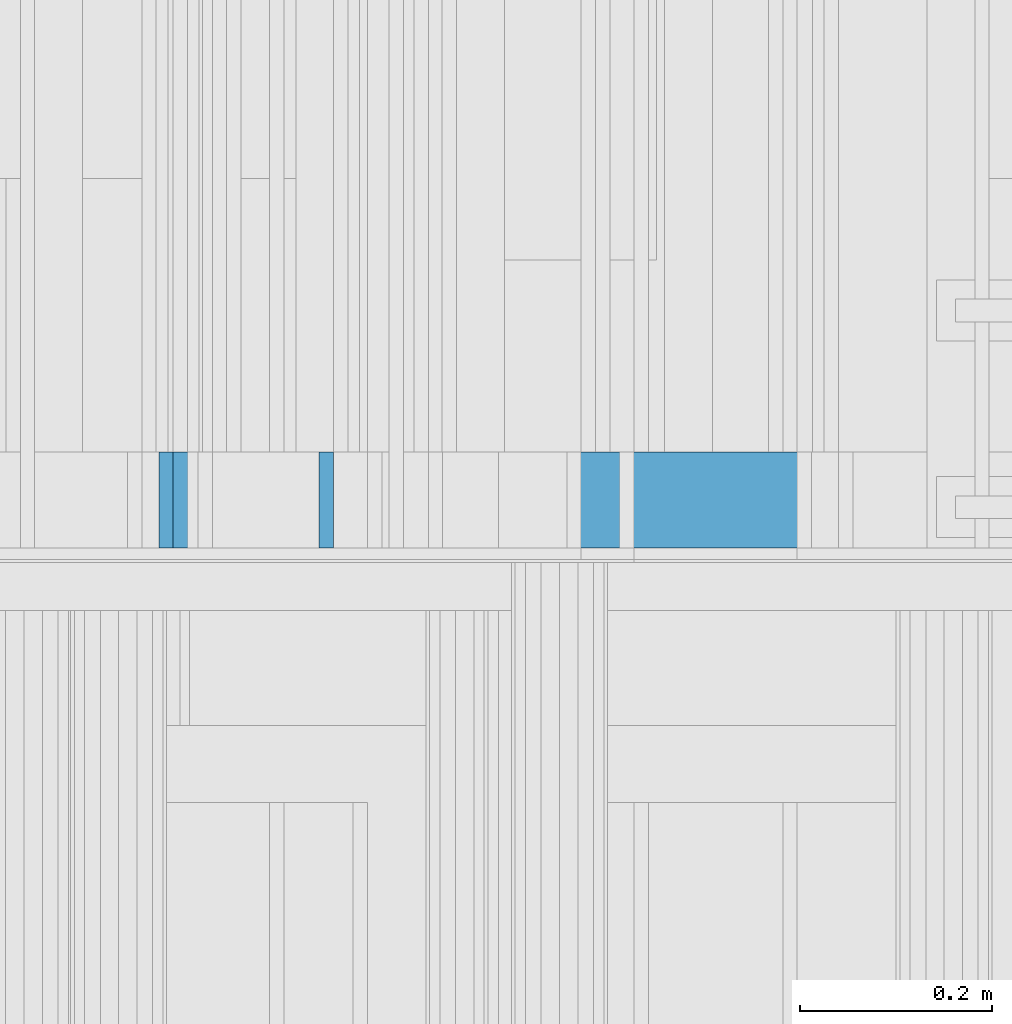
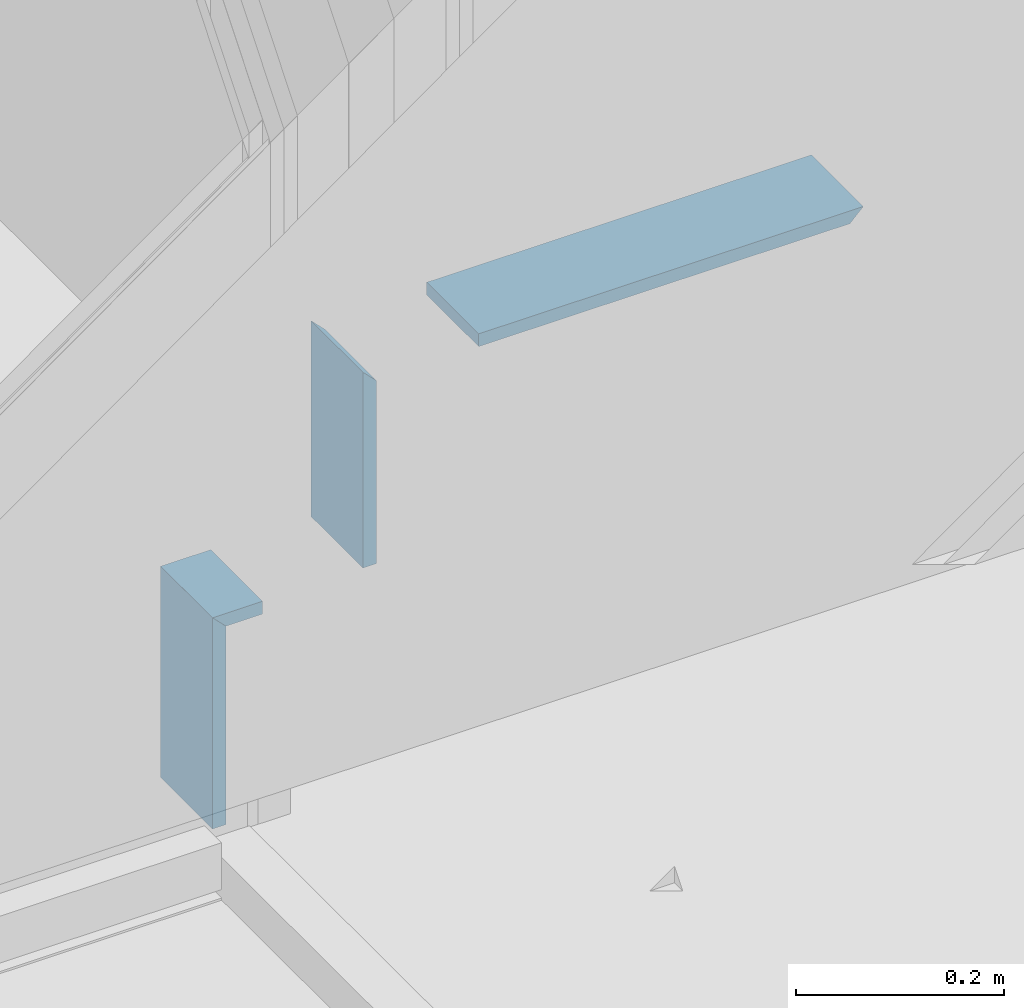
# One storey, part 219 of 583: 4 building element parts, 4 elements without a shape of their own.
"""IFC2X3 building model written with IfcOpenShell, lengths in metres."""

import ifcopenshell
import ifcopenshell.guid

model = None  # the IFC model being written
_history = None  # IfcOwnerHistory: only IFC2X3 demands one
_inside = {}  # id of a spatial element -> (the spatial element, [elements in it])
_under = {}  # id of a project, library or spatial element -> (it, [spatial elements below it])
_declared = {}  # id of a project -> (the project, [libraries it declares])
_typed = {}  # id of a type object -> (the type object, [elements of that type])
_made_of = {}  # id of a material, layer set ... -> (it, [elements and type objects made of it])


def new_model(schema):
    """Start an empty IFC model of exactly this schema.

    Asked for "IFC4X3", IfcOpenShell would pick the latest addendum, in which some entities
    have other attributes; the version numbers below select the first issue.
    IFC2X3 requires an IfcOwnerHistory on every rooted entity: one is made here for all.
    """
    global model, _history
    if schema == "IFC4X3":
        model = ifcopenshell.file(schema_version=(4, 3, 0, 0))
    else:
        model = ifcopenshell.file(schema=schema)
    _inside.clear()
    _under.clear()
    _declared.clear()
    _typed.clear()
    _made_of.clear()
    _history = None
    if model.schema == "IFC2X3":
        org = make("IfcOrganization", Name="unknown")
        user = make(
            "IfcPersonAndOrganization",
            ThePerson=make("IfcPerson", FamilyName="unknown"),
            TheOrganization=org,
        )
        app = make(
            "IfcApplication",
            ApplicationDeveloper=org,
            Version="unknown",
            ApplicationFullName="unknown",
            ApplicationIdentifier="unknown",
        )
        _history = make(
            "IfcOwnerHistory",
            OwningUser=user,
            OwningApplication=app,
            ChangeAction="ADDED",
            CreationDate=0,
        )
    return model


def make(cls, **values):
    """One entity of the class cls with the attributes given. An attribute that is None is left unset."""
    return model.create_entity(
        cls, **{name: value for name, value in values.items() if value is not None}
    )


def entity(cls, *values):
    """Any entity or typed value of the class cls, its attributes in the order of the schema. None: left unset."""
    e = model.create_entity(cls)
    for i, value in enumerate(values):
        if value is not None:
            e[i] = value
    return e


def rooted(cls, **values):
    """An entity with a GlobalId (a new one), such as an element, a storey or a relation."""
    return make(cls, GlobalId=ifcopenshell.guid.new(), OwnerHistory=_history, **values)


def si_unit(unit_type, name, prefix=None):
    """IfcSIUnit, for example si_unit("LENGTHUNIT", "METRE", prefix="MILLI")."""
    return make("IfcSIUnit", UnitType=unit_type, Prefix=prefix, Name=name)


def converted_unit(unit_type, name, factor, base, dimensions=None, offset=None):
    """IfcConversionBasedUnit, such as the inch: factor (a typed value) times the base unit."""
    return make(
        "IfcConversionBasedUnit"
        if offset is None
        else "IfcConversionBasedUnitWithOffset",
        ConversionOffset=offset,
        Dimensions=None
        if dimensions is None
        else entity("IfcDimensionalExponents", *dimensions),
        UnitType=unit_type,
        Name=name,
        ConversionFactor=make(
            "IfcMeasureWithUnit", ValueComponent=factor, UnitComponent=base
        ),
    )


def derived_unit(unit_type, elements):
    """IfcDerivedUnit: a product of units, each with its exponent."""
    return make(
        "IfcDerivedUnit",
        Elements=[
            make("IfcDerivedUnitElement", Unit=unit, Exponent=power)
            for unit, power in elements
        ],
        UnitType=unit_type,
    )


def money_unit(currency):
    """IfcMonetaryUnit."""
    return make("IfcMonetaryUnit", Currency=currency)


def assignment(units):
    """IfcUnitAssignment: the units of a project."""
    return None if units is None else make("IfcUnitAssignment", Units=units)


def point(xyz):
    """IfcCartesianPoint."""
    return None if xyz is None else make("IfcCartesianPoint", Coordinates=xyz)


def direction(xyz):
    """IfcDirection."""
    return None if xyz is None else make("IfcDirection", DirectionRatios=xyz)


def frame(location, z_axis=None, x_axis=None):
    """IfcAxis2Placement3D, a coordinate frame: its origin and axes. An axis left out is left unset."""
    return make(
        "IfcAxis2Placement3D",
        Location=point(location),
        Axis=direction(z_axis),
        RefDirection=direction(x_axis),
    )


def origin_with_axes():
    """The frame at (0, 0, 0) with the z axis (0, 0, 1) and the x axis (1, 0, 0) written out."""
    return frame((0.0, 0.0, 0.0), z_axis=(0.0, 0.0, 1.0), x_axis=(1.0, 0.0, 0.0))


def place(relative_to, where):
    """IfcLocalPlacement: puts the frame where relative to a parent placement (None: the world)."""
    return make(
        "IfcLocalPlacement", PlacementRelTo=relative_to, RelativePlacement=where
    )


def context(
    kind, dimensions, precision=None, world=None, true_north=None, identifier=None
):
    """IfcGeometricRepresentationContext, for example the 3D "Model" context."""
    return make(
        "IfcGeometricRepresentationContext",
        ContextIdentifier=identifier,
        ContextType=kind,
        CoordinateSpaceDimension=dimensions,
        Precision=precision,
        WorldCoordinateSystem=world,
        TrueNorth=true_north,
    )


def subcontext(parent, identifier, kind, view, scale=None):
    """IfcGeometricRepresentationSubContext, for example "Body" below "Model"."""
    return make(
        "IfcGeometricRepresentationSubContext",
        ContextIdentifier=identifier,
        ContextType=kind,
        ParentContext=parent,
        TargetScale=scale,
        TargetView=view,
    )


def project(units=None, contexts=None):
    """IfcProject with its units and contexts."""
    return rooted(
        "IfcProject",
        Name="project",
        RepresentationContexts=contexts,
        UnitsInContext=assignment(units),
    )


def spatial(cls, under=None, at=None, **own):
    """A site, building, storey or space (cls), placed at a placement, below another one or the project."""
    s = rooted(cls, ObjectPlacement=at, **own)
    if under is not None:
        _under.setdefault(under.id(), (under, []))[1].append(s)
    return s


def polyline(points):
    """IfcPolyline through the points."""
    return make("IfcPolyline", Points=[point(p) for p in points])


def outline(outer, holes=None, kind="AREA"):
    """IfcArbitraryClosedProfileDef: a profile drawn as a closed curve; with holes, ...WithVoids."""
    if holes is None:
        return make("IfcArbitraryClosedProfileDef", ProfileType=kind, OuterCurve=outer)
    return make(
        "IfcArbitraryProfileDefWithVoids",
        ProfileType=kind,
        OuterCurve=outer,
        InnerCurves=holes,
    )


def extrude(swept, where, along, depth):
    """IfcExtrudedAreaSolid: the profile swept, set in the frame where, extruded along a direction by depth."""
    return make(
        "IfcExtrudedAreaSolid",
        SweptArea=swept,
        Position=where,
        ExtrudedDirection=direction(along),
        Depth=depth,
    )


def shape(context_of_items, identifier, shape_type, items):
    """IfcShapeRepresentation: the items that make up one representation, for example the "Body"."""
    return make(
        "IfcShapeRepresentation",
        ContextOfItems=context_of_items,
        RepresentationIdentifier=identifier,
        RepresentationType=shape_type,
        Items=items,
    )


def material(Name=None, Category=None):
    """IfcMaterial."""
    return make("IfcMaterial", Name=Name, Category=Category)


def made_of(thing, what):
    """Note that an element or type object is made of a material, layer set ...; save() writes the relation."""
    if what is not None:
        _made_of.setdefault(what.id(), (what, []))[1].append(thing)
    return thing


def type_object(cls, material=None, **own):
    """A type object (cls), such as IfcWallType, which elements share."""
    return made_of(rooted(cls, **own), material)


def element(
    cls,
    number,
    at=None,
    inside=None,
    cuts=None,
    type_object=None,
    material=None,
    context=None,
    identifier="Body",
    shape_type=None,
    held_by="IfcProductDefinitionShape",
    body=None,
    shapes=None,
    **own,
):
    """One element of the class cls, such as IfcWall. Its Tag is "e" and its number.

    at: its placement. inside: the storey or other place that contains it. cuts: it is an
    opening in that element (IfcRelVoidsElement). A single representation is given by context,
    identifier, shape_type and body (its items); several are given by shapes. held_by: the class
    of the entity that holds the representations. save() writes the other relations.
    """
    e = rooted(cls, Tag="e%d" % number, ObjectPlacement=at, **own)
    if body is not None:
        shapes = [shape(context, identifier, shape_type, body)]
    if shapes is not None:
        e.Representation = make(held_by, Representations=shapes)
    if inside is not None:
        _inside.setdefault(inside.id(), (inside, []))[1].append(e)
    if cuts is not None:
        rooted(
            "IfcRelVoidsElement", RelatingBuildingElement=cuts, RelatedOpeningElement=e
        )
    if type_object is not None:
        _typed.setdefault(type_object.id(), (type_object, []))[1].append(e)
    return made_of(e, material)


def aggregate(whole, parts):
    """IfcRelAggregates: a whole, such as a stair, and the parts it consists of."""
    return rooted("IfcRelAggregates", RelatingObject=whole, RelatedObjects=parts)


def save(model, path):
    """Write the relations noted so far, then the file.

    IfcRelAggregates (storeys below a building ...), IfcRelContainedInSpatialStructure (elements
    in a storey), IfcRelDefinesByType, IfcRelAssociatesMaterial and IfcRelDeclares: one each for
    every whole, place, type object, material and project.
    """
    for whole, parts in _under.values():
        aggregate(whole, parts)
    for where, things in _inside.values():
        rooted(
            "IfcRelContainedInSpatialStructure",
            RelatedElements=things,
            RelatingStructure=where,
        )
    for kind, things in _typed.values():
        rooted("IfcRelDefinesByType", RelatedObjects=things, RelatingType=kind)
    for what, things in _made_of.values():
        rooted("IfcRelAssociatesMaterial", RelatedObjects=things, RelatingMaterial=what)
    for by, libraries in _declared.values():
        rooted("IfcRelDeclares", RelatingContext=by, RelatedDefinitions=libraries)
    model.write(path)


model = new_model("IFC2X3")

# Units and contexts
model_context = context("Model", 3, precision=1e-05, world=origin_with_axes(), true_north=direction((0.0, 1.0)))
body_context = subcontext(model_context, "Body", "Model", "MODEL_VIEW", scale=1.0)
ifc_project = project(units=[si_unit("LENGTHUNIT", "METRE"), si_unit("AREAUNIT", "SQUARE_METRE"), si_unit("VOLUMEUNIT", "CUBIC_METRE"), si_unit("ABSORBEDDOSEUNIT", "GRAY"), si_unit("AMOUNTOFSUBSTANCEUNIT", "MOLE"), si_unit("DOSEEQUIVALENTUNIT", "SIEVERT"), si_unit("ELECTRICCAPACITANCEUNIT", "FARAD"), si_unit("ELECTRICCHARGEUNIT", "COULOMB"), si_unit("ELECTRICCONDUCTANCEUNIT", "SIEMENS"), si_unit("ELECTRICCURRENTUNIT", "AMPERE"), si_unit("ELECTRICRESISTANCEUNIT", "OHM"), si_unit("ELECTRICVOLTAGEUNIT", "VOLT"), si_unit("ENERGYUNIT", "JOULE"), si_unit("FORCEUNIT", "NEWTON"), si_unit("FREQUENCYUNIT", "HERTZ"), si_unit("ILLUMINANCEUNIT", "LUX"), si_unit("INDUCTANCEUNIT", "HENRY"), si_unit("LUMINOUSFLUXUNIT", "LUMEN"), si_unit("LUMINOUSINTENSITYUNIT", "CANDELA"), si_unit("MAGNETICFLUXDENSITYUNIT", "TESLA"), si_unit("MAGNETICFLUXUNIT", "WEBER"), si_unit("MASSUNIT", "GRAM"), converted_unit("PLANEANGLEUNIT", "degree", entity("IfcReal", 0.0174532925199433), si_unit("PLANEANGLEUNIT", "RADIAN"), dimensions=[0, 0, 0, 0, 0, 0, 0]), si_unit("POWERUNIT", "WATT"), si_unit("PRESSUREUNIT", "PASCAL"), si_unit("RADIOACTIVITYUNIT", "BECQUEREL"), si_unit("SOLIDANGLEUNIT", "STERADIAN"), si_unit("THERMODYNAMICTEMPERATUREUNIT", "KELVIN"), si_unit("TIMEUNIT", "SECOND"), derived_unit("ACCELERATIONUNIT", [(si_unit("LENGTHUNIT", "METRE"), 1), (si_unit("TIMEUNIT", "SECOND"), -2)]), derived_unit("ANGULARVELOCITYUNIT", [(converted_unit("PLANEANGLEUNIT", "degree", entity("IfcReal", 0.0174532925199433), si_unit("PLANEANGLEUNIT", "RADIAN"), dimensions=[0, 0, 0, 0, 0, 0, 0]), 1), (si_unit("TIMEUNIT", "SECOND"), -1)]), derived_unit("CURVATUREUNIT", [(converted_unit("PLANEANGLEUNIT", "degree", entity("IfcReal", 0.0174532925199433), si_unit("PLANEANGLEUNIT", "RADIAN"), dimensions=[0, 0, 0, 0, 0, 0, 0]), 1), (si_unit("LENGTHUNIT", "METRE"), -1)]), derived_unit("DYNAMICVISCOSITYUNIT", [(si_unit("PRESSUREUNIT", "PASCAL"), 1), (si_unit("TIMEUNIT", "SECOND"), 1)]), derived_unit("HEATFLUXDENSITYUNIT", [(si_unit("POWERUNIT", "WATT"), 1), (si_unit("LENGTHUNIT", "METRE"), -2)]), derived_unit("HEATINGVALUEUNIT", [(si_unit("ENERGYUNIT", "JOULE"), 1), (si_unit("MASSUNIT", "GRAM"), -1)]), derived_unit("INTEGERCOUNTRATEUNIT", [(si_unit("TIMEUNIT", "SECOND"), -1)]), derived_unit("IONCONCENTRATIONUNIT", [(si_unit("MASSUNIT", "GRAM"), 1), (si_unit("VOLUMEUNIT", "CUBIC_METRE"), -1)]), derived_unit("ISOTHERMALMOISTURECAPACITYUNIT", [(si_unit("VOLUMEUNIT", "CUBIC_METRE"), 1), (si_unit("MASSUNIT", "GRAM"), -1)]), derived_unit("KINEMATICVISCOSITYUNIT", [(si_unit("AREAUNIT", "SQUARE_METRE"), 1), (si_unit("TIMEUNIT", "SECOND"), -1)]), derived_unit("LINEARFORCEUNIT", [(si_unit("FORCEUNIT", "NEWTON"), 1), (si_unit("LENGTHUNIT", "METRE"), -1)]), derived_unit("LINEARMOMENTUNIT", [(si_unit("FORCEUNIT", "NEWTON"), 1), (si_unit("LENGTHUNIT", "METRE"), -1)]), derived_unit("LINEARSTIFFNESSUNIT", [(si_unit("FORCEUNIT", "NEWTON"), 1), (si_unit("LENGTHUNIT", "METRE"), -1)]), derived_unit("LINEARVELOCITYUNIT", [(si_unit("LENGTHUNIT", "METRE"), 1), (si_unit("TIMEUNIT", "SECOND"), -1)]), derived_unit("LUMINOUSINTENSITYDISTRIBUTIONUNIT", [(si_unit("LUMINOUSINTENSITYUNIT", "CANDELA"), 1), (si_unit("LUMINOUSFLUXUNIT", "LUMEN"), -1)]), derived_unit("MASSDENSITYUNIT", [(si_unit("MASSUNIT", "GRAM"), 1), (si_unit("VOLUMEUNIT", "CUBIC_METRE"), -1)]), derived_unit("MASSFLOWRATEUNIT", [(si_unit("MASSUNIT", "GRAM"), 1), (si_unit("TIMEUNIT", "SECOND"), -1)]), derived_unit("MASSPERLENGTHUNIT", [(si_unit("MASSUNIT", "GRAM"), 1), (si_unit("LENGTHUNIT", "METRE"), -1)]), derived_unit("MODULUSOFELASTICITYUNIT", [(si_unit("FORCEUNIT", "NEWTON"), 1), (si_unit("AREAUNIT", "SQUARE_METRE"), -1)]), derived_unit("MODULUSOFLINEARSUBGRADEREACTIONUNIT", [(si_unit("FORCEUNIT", "NEWTON"), 1), (si_unit("LENGTHUNIT", "METRE"), -2)]), derived_unit("MODULUSOFROTATIONALSUBGRADEREACTIONUNIT", [(si_unit("FORCEUNIT", "NEWTON"), 1), (si_unit("LENGTHUNIT", "METRE"), 1)]), derived_unit("MODULUSOFSUBGRADEREACTIONUNIT", [(si_unit("FORCEUNIT", "NEWTON"), 1), (si_unit("VOLUMEUNIT", "CUBIC_METRE"), -1)]), derived_unit("MOISTUREDIFFUSIVITYUNIT", [(si_unit("VOLUMEUNIT", "CUBIC_METRE"), 1), (si_unit("TIMEUNIT", "SECOND"), -1)]), derived_unit("MOLECULARWEIGHTUNIT", [(si_unit("MASSUNIT", "GRAM"), 1), (si_unit("AMOUNTOFSUBSTANCEUNIT", "MOLE"), -1)]), derived_unit("PLANARFORCEUNIT", [(si_unit("FORCEUNIT", "NEWTON"), 1), (si_unit("LENGTHUNIT", "METRE"), -2)]), derived_unit("ROTATIONALFREQUENCYUNIT", [(si_unit("TIMEUNIT", "SECOND"), -1)]), derived_unit("ROTATIONALMASSUNIT", [(si_unit("MASSUNIT", "GRAM"), 1), (si_unit("LENGTHUNIT", "METRE"), 2)]), derived_unit("ROTATIONALSTIFFNESSUNIT", [(si_unit("FORCEUNIT", "NEWTON"), 1), (si_unit("LENGTHUNIT", "METRE"), 1), (converted_unit("PLANEANGLEUNIT", "degree", entity("IfcReal", 0.0174532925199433), si_unit("PLANEANGLEUNIT", "RADIAN"), dimensions=[0, 0, 0, 0, 0, 0, 0]), -1)]), derived_unit("SECTIONAREAINTEGRALUNIT", [(si_unit("LENGTHUNIT", "METRE"), 5)]), derived_unit("SECTIONMODULUSUNIT", [(si_unit("LENGTHUNIT", "METRE"), 3)]), derived_unit("SHEARMODULUSUNIT", [(si_unit("FORCEUNIT", "NEWTON"), 1), (si_unit("AREAUNIT", "SQUARE_METRE"), -1)]), derived_unit("SOUNDPOWERUNIT", [(si_unit("ENERGYUNIT", "JOULE"), 1), (si_unit("TIMEUNIT", "SECOND"), -1)]), derived_unit("SPECIFICHEATCAPACITYUNIT", [(si_unit("FORCEUNIT", "NEWTON"), 1), (si_unit("MASSUNIT", "GRAM"), -1), (si_unit("THERMODYNAMICTEMPERATUREUNIT", "KELVIN"), -1)]), derived_unit("TEMPERATUREGRADIENTUNIT", [(si_unit("THERMODYNAMICTEMPERATUREUNIT", "KELVIN"), 1), (si_unit("LENGTHUNIT", "METRE"), -1)]), derived_unit("THERMALADMITTANCEUNIT", [(si_unit("POWERUNIT", "WATT"), 1), (si_unit("AREAUNIT", "SQUARE_METRE"), -1), (si_unit("THERMODYNAMICTEMPERATUREUNIT", "KELVIN"), -1)]), derived_unit("THERMALCONDUCTANCEUNIT", [(si_unit("POWERUNIT", "WATT"), 1), (si_unit("LENGTHUNIT", "METRE"), -1), (si_unit("THERMODYNAMICTEMPERATUREUNIT", "KELVIN"), -1)]), derived_unit("THERMALEXPANSIONCOEFFICIENTUNIT", [(si_unit("THERMODYNAMICTEMPERATUREUNIT", "KELVIN"), -1)]), derived_unit("THERMALRESISTANCEUNIT", [(si_unit("AREAUNIT", "SQUARE_METRE"), 1), (si_unit("POWERUNIT", "WATT"), -1)]), derived_unit("THERMALTRANSMITTANCEUNIT", [(si_unit("POWERUNIT", "WATT"), 1), (si_unit("AREAUNIT", "SQUARE_METRE"), -1), (si_unit("THERMODYNAMICTEMPERATUREUNIT", "KELVIN"), -1)]), derived_unit("TORQUEUNIT", [(si_unit("FORCEUNIT", "NEWTON"), 1), (si_unit("LENGTHUNIT", "METRE"), 1)]), derived_unit("VAPORPERMEABILITYUNIT", [(si_unit("MASSUNIT", "GRAM"), 1), (si_unit("TIMEUNIT", "SECOND"), -1)]), derived_unit("VOLUMETRICFLOWRATEUNIT", [(si_unit("VOLUMEUNIT", "CUBIC_METRE"), 1), (si_unit("TIMEUNIT", "SECOND"), -1)]), derived_unit("WARPINGCONSTANTUNIT", [(si_unit("LENGTHUNIT", "METRE"), 6)]), derived_unit("WARPINGMOMENTUNIT", [(si_unit("FORCEUNIT", "NEWTON"), 1), (si_unit("LENGTHUNIT", "METRE"), 2)]), money_unit("GBP")], contexts=[model_context])

# Site, building, storey
site_placement = place(None, origin_with_axes())
site = spatial("IfcSite", under=ifc_project, at=site_placement, Name="Site", CompositionType="ELEMENT")
building_placement = place(site_placement, origin_with_axes())
building = spatial("IfcBuilding", under=site, at=building_placement, Name="Building01", CompositionType="ELEMENT")
storey_placement = place(building_placement, frame((0.0, 0.0, 20.78), z_axis=(0.0, 0.0, 1.0), x_axis=(1.0, 0.0, 0.0)))
storey = spatial("IfcBuildingStorey", under=building, at=storey_placement, Name="RL", CompositionType="ELEMENT", Elevation=20.78)

# Wall, building element part
wall_type = type_object("IfcWallType", Name="SHE_A-Walls_Type06f_ExternalWallInsulation_48+15mm", PredefinedType="NOTDEFINED")
wall_1_placement = place(storey_placement, frame((8.233, 8.64, -20.51), z_axis=(0.0, 1.0, 0.0), x_axis=(0.0, 0.0, -1.0)))
wall_1 = element("IfcWall", 1, at=wall_1_placement, inside=storey, type_object=wall_type, Name="6F", ObjectType="SHE_A-Walls_Type06f_ExternalWallInsulation_48+15mm")
ifc_material = material(Name="A_BSUK_Walls_Timber")
building_element_part_1_placement = place(wall_1_placement, origin_with_axes())
building_element_part_1 = element("IfcBuildingElementPart", 2, at=building_element_part_1_placement, material=ifc_material, Name="2", context=body_context, shape_type="SweptSolid", body=[
    extrude(outline(polyline([(0.17, 0.078), (-0.078, 0.078), (-0.063, 0.063), (0.17, 0.063), (0.17, 0.078)])), frame((0.0, 0.0, 0.015), z_axis=(0.0, 0.0, 1.0), x_axis=(1.0, 0.0, 0.0)), (0.0, 0.0, 1.0), 0.1),
])
aggregate(wall_1, [building_element_part_1])

wall_2_placement = place(storey_placement, frame((8.4, 8.64, -20.28), z_axis=(0.0, 1.0, 0.0), x_axis=(0.0, 0.0, 1.0)))
wall_2 = element("IfcWall", 3, at=wall_2_placement, inside=storey, type_object=wall_type, Name="6F", ObjectType="SHE_A-Walls_Type06f_ExternalWallInsulation_48+15mm")
building_element_part_2_placement = place(wall_2_placement, origin_with_axes())
building_element_part_2 = element("IfcBuildingElementPart", 4, at=building_element_part_2_placement, material=ifc_material, Name="2", context=body_context, shape_type="SweptSolid", body=[
    extrude(outline(polyline([(-0.152, -0.078), (0.078, -0.078), (0.063, -0.063), (-0.152, -0.063), (-0.152, -0.078)])), frame((0.0, 0.0, 0.015), z_axis=(0.0, 0.0, 1.0), x_axis=(1.0, 0.0, 0.0)), (0.0, 0.0, 1.0), 0.1),
])
aggregate(wall_2, [building_element_part_2])

wall_3_placement = place(storey_placement, frame((8.8, 8.64, -20.28), z_axis=(0.0, 1.0, 0.0), x_axis=(1.0, 0.0, 0.0)))
wall_3 = element("IfcWall", 5, at=wall_3_placement, inside=storey, type_object=wall_type, Name="6F", ObjectType="SHE_A-Walls_Type06f_ExternalWallInsulation_48+15mm")
building_element_part_3_placement = place(wall_3_placement, origin_with_axes())
building_element_part_3 = element("IfcBuildingElementPart", 6, at=building_element_part_3_placement, material=ifc_material, Name="2", context=body_context, shape_type="SweptSolid", body=[
    extrude(outline(polyline([(-0.34933, -0.078), (0.078, -0.078), (0.063, -0.063), (-0.34933, -0.063), (-0.34933, -0.078)])), frame((0.0, 0.0, 0.015), z_axis=(0.0, 0.0, 1.0), x_axis=(1.0, 0.0, 0.0)), (0.0, 0.0, 1.0), 0.1),
])
aggregate(wall_3, [building_element_part_3])

wall_4_placement = place(storey_placement, frame((8.197, 8.64, -20.51), z_axis=(0.0, 1.0, 0.0), x_axis=(1.0, 0.0, 0.0)))
wall_4 = element("IfcWall", 7, at=wall_4_placement, inside=storey, type_object=wall_type, Name="6F", ObjectType="SHE_A-Walls_Type06f_ExternalWallInsulation_48+15mm")
building_element_part_4_placement = place(wall_4_placement, origin_with_axes())
building_element_part_4 = element("IfcBuildingElementPart", 8, at=building_element_part_4_placement, material=ifc_material, Name="2", context=body_context, shape_type="SweptSolid", body=[
    extrude(outline(polyline([(0.01367, -0.063), (-0.027, -0.063), (-0.042, -0.078), (0.01367, -0.078), (0.01367, -0.063)])), frame((0.0, 0.0, 0.015), z_axis=(0.0, 0.0, 1.0), x_axis=(1.0, 0.0, 0.0)), (0.0, 0.0, 1.0), 0.1),
])
aggregate(wall_4, [building_element_part_4])

save(model, "model.ifc")
